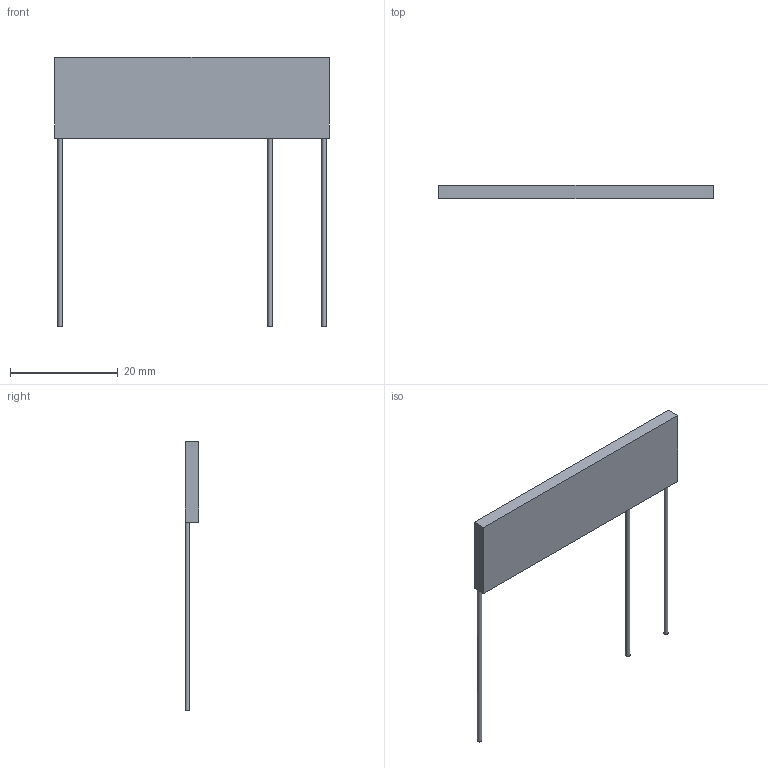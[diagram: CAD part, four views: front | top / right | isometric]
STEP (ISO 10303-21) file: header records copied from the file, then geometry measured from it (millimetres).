
FILE_DESCRIPTION(('STEP AP203'), '1');
FILE_NAME('NR1-77-2-3', '', ('UNSPECIFIED'), ('UNSPECIFIED'), 'ASCON STEP Converter 1.6', 'ASCON Math Kernel', '');
FILE_SCHEMA(('CONFIG_CONTROL_DESIGN'));
Length unit declared in the file: millimetre
Bounding box: 51 x 2.5 x 50 mm (x, y, z)
Volume: 1965.3 mm3; surface area: 2123.9 mm2
Topology: 1 solids, 1 shells, 12 faces, 27 edges, 17 vertices
Faces by surface type: plane 9, cylinder 3
Full cylindrical faces by diameter (mm): 0.8 x3
Entity records: 461 total; most frequent: DIRECTION 59, CARTESIAN_POINT 54, ORIENTED_EDGE 48, EDGE_CURVE 24, AXIS2_PLACEMENT_3D 22, VERTEX_POINT 17, EDGE_LOOP 15, LINE 15
